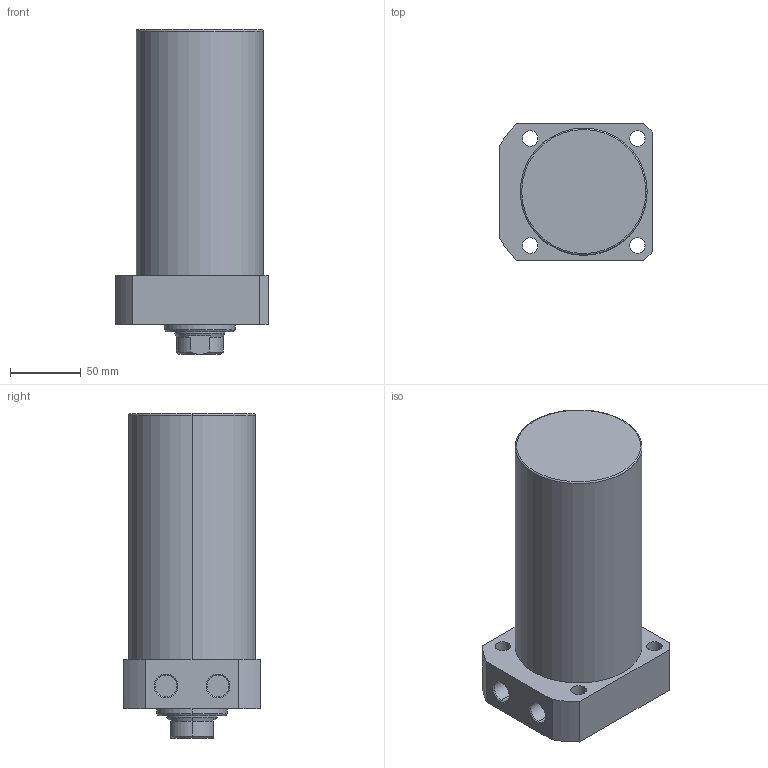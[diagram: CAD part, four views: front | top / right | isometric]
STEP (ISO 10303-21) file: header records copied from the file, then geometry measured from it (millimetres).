
FILE_DESCRIPTION (( 'STEP AP203' ), '1' );
FILE_NAME ('CLLR-090CA-130.STEP', '2019-12-18T06:28:18', ( '' ), ( '' ), 'SwSTEP 2.0', 'SolidWorks 2015', '' );
FILE_SCHEMA (( 'CONFIG_CONTROL_DESIGN' ));
Length unit declared in the file: millimetre
Products named in the file (1): CLLR-090CA-130
Bounding box: 108 x 97 x 230 mm (x, y, z)
Volume: 1455845.6 mm3; surface area: 94284.8 mm2
Topology: 1 solids, 1 shells, 65 faces, 151 edges, 94 vertices
Faces by surface type: cylinder 29, plane 19, cone 15, torus 2
Entity records: 1977 total; most frequent: CARTESIAN_POINT 357, DIRECTION 350, ORIENTED_EDGE 298, EDGE_CURVE 149, AXIS2_PLACEMENT_3D 143, VERTEX_POINT 94, EDGE_LOOP 81, CIRCLE 77
